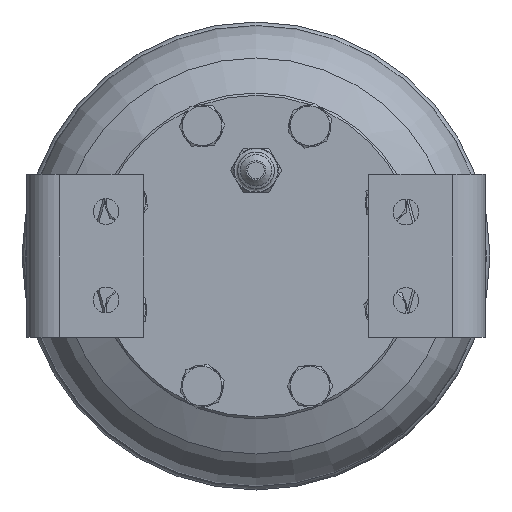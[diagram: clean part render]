
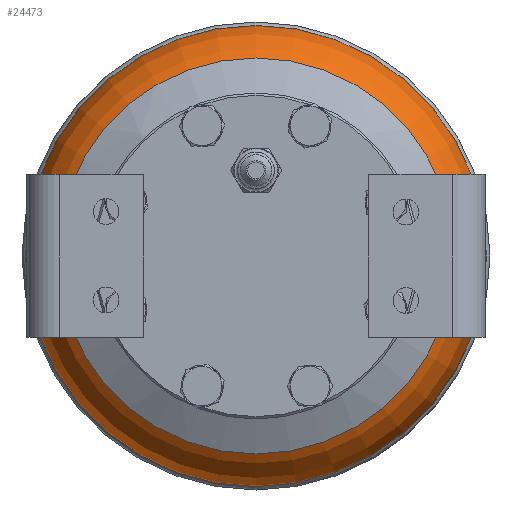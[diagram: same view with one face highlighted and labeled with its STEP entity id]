
A CAD part, front view. The second image highlights one B-rep face of the part: STEP entity #24473.
In plain terms, the highlighted toroidal (fillet/blend) face has major radius 69 mm and minor radius 30 mm.
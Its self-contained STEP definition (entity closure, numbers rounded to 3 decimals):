
#1003=TOROIDAL_SURFACE('',#26053,69.,30.);
#1040=FACE_BOUND('',#4539,.T.);
#3009=FACE_OUTER_BOUND('',#4538,.T.);
#4538=EDGE_LOOP('',(#16786));
#4539=EDGE_LOOP('',(#16787));
#6302=CIRCLE('',#26052,85.047);
#6303=CIRCLE('',#26054,99.);
#10405=VERTEX_POINT('',#34951);
#10406=VERTEX_POINT('',#34954);
#12961=EDGE_CURVE('',#10405,#10405,#6302,.T.);
#12962=EDGE_CURVE('',#10406,#10406,#6303,.T.);
#16786=ORIENTED_EDGE('',*,*,#12961,.F.);
#16787=ORIENTED_EDGE('',*,*,#12962,.T.);
#24473=ADVANCED_FACE('',(#3009,#1040),#1003,.T.);
#26052=AXIS2_PLACEMENT_3D('',#34952,#28480,#28481);
#26053=AXIS2_PLACEMENT_3D('',#34953,#28482,#28483);
#26054=AXIS2_PLACEMENT_3D('',#34955,#28484,#28485);
#28480=DIRECTION('center_axis',(0.,-1.,0.));
#28481=DIRECTION('ref_axis',(1.,0.,0.));
#28482=DIRECTION('center_axis',(0.,-1.,0.));
#28483=DIRECTION('ref_axis',(0.,0.,
1.));
#28484=DIRECTION('center_axis',(0.,-1.,0.));
#28485=DIRECTION('ref_axis',(1.,0.,0.));
#34951=CARTESIAN_POINT('',(85.047,-143.021,0.));
#34952=CARTESIAN_POINT('Origin',(0.,-143.021,
0.));
#34953=CARTESIAN_POINT('Origin',(0.,-117.673,
0.));
#34954=CARTESIAN_POINT('',(99.,-117.673,0.));
#34955=CARTESIAN_POINT('Origin',(0.,-117.673,
0.));
